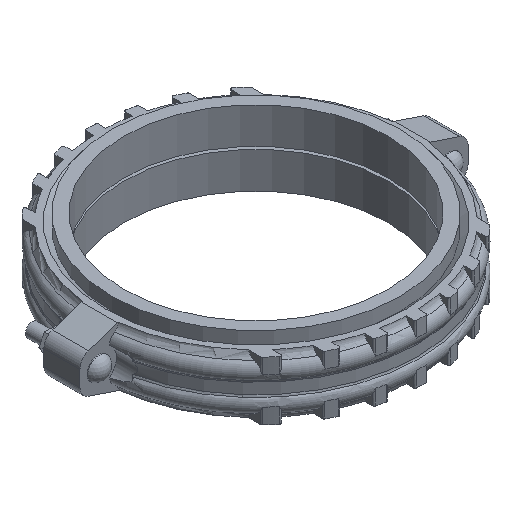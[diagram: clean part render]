
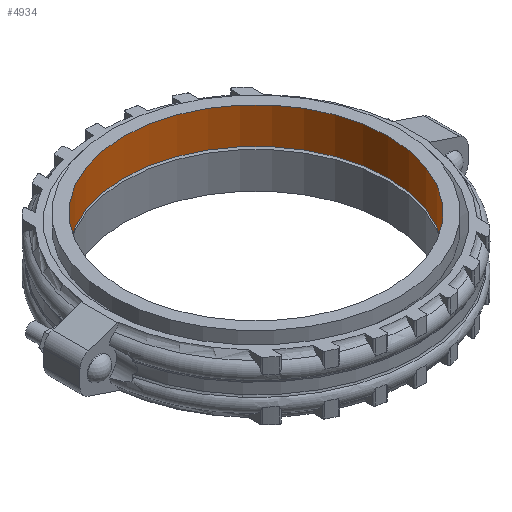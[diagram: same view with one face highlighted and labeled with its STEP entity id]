
A CAD part, isometric view. The second image highlights one B-rep face of the part: STEP entity #4934.
In plain terms, the highlighted cylindrical face has radius 279.4 mm (diameter 558.8 mm), a full revolution.
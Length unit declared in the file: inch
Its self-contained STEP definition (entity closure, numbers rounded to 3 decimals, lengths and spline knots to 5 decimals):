
#386=CYLINDRICAL_SURFACE('',#5507,11.);
#650=FACE_OUTER_BOUND('',#914,.T.);
#914=EDGE_LOOP('',(#4330,#4331,#4332,#4333,#4334,#4335));
#1181=LINE('',#10625,#1446);
#1446=VECTOR('',#6776,11.);
#1693=CIRCLE('',#5505,11.);
#1694=CIRCLE('',#5506,11.);
#1695=CIRCLE('',#5508,11.);
#1696=CIRCLE('',#5509,11.);
#2179=VERTEX_POINT('',#10619);
#2180=VERTEX_POINT('',#10620);
#2181=VERTEX_POINT('',#10624);
#2182=VERTEX_POINT('',#10626);
#2897=EDGE_CURVE('',#2179,#2180,#1693,.T.);
#2898=EDGE_CURVE('',#2180,#2179,#1694,.T.);
#2899=EDGE_CURVE('',#2180,#2181,#1181,.T.);
#2900=EDGE_CURVE('',#2182,#2181,#1695,.T.);
#2901=EDGE_CURVE('',#2181,#2182,#1696,.T.);
#4330=ORIENTED_EDGE('',*,*,#2897,.T.);
#4331=ORIENTED_EDGE('',*,*,#2899,.T.);
#4332=ORIENTED_EDGE('',*,*,#2900,.F.);
#4333=ORIENTED_EDGE('',*,*,#2901,.F.);
#4334=ORIENTED_EDGE('',*,*,#2899,.F.);
#4335=ORIENTED_EDGE('',*,*,#2898,.T.);
#4934=ADVANCED_FACE('',(#650),#386,.F.);
#5505=AXIS2_PLACEMENT_3D('',#10621,#6770,#6771);
#5506=AXIS2_PLACEMENT_3D('',#10622,#6772,#6773);
#5507=AXIS2_PLACEMENT_3D('',#10623,#6774,#6775);
#5508=AXIS2_PLACEMENT_3D('',#10627,#6777,#6778);
#5509=AXIS2_PLACEMENT_3D('',#10628,#6779,#6780);
#6770=DIRECTION('center_axis',(0.,0.,-1.));
#6771=DIRECTION('ref_axis',(1.,0.,0.));
#6772=DIRECTION('center_axis',(0.,0.,-1.));
#6773=DIRECTION('ref_axis',(1.,0.,0.));
#6774=DIRECTION('center_axis',(0.,0.,-1.));
#6775=DIRECTION('ref_axis',(0.,1.,0.));
#6776=DIRECTION('',(0.,0.,1.));
#6777=DIRECTION('center_axis',(0.,0.,-1.));
#6778=DIRECTION('ref_axis',(1.,0.,0.));
#6779=DIRECTION('center_axis',(0.,0.,-1.));
#6780=DIRECTION('ref_axis',(1.,0.,0.));
#10619=CARTESIAN_POINT('',(0.,11.,0.));
#10620=CARTESIAN_POINT('',(0.,-11.,0.));
#10621=CARTESIAN_POINT('Origin',(0.,0.,0.));
#10622=CARTESIAN_POINT('Origin',(0.,0.,0.));
#10623=CARTESIAN_POINT('Origin',(0.,0.,1.5));
#10624=CARTESIAN_POINT('',(0.,-11.,3.));
#10625=CARTESIAN_POINT('',(0.,-11.,1.5));
#10626=CARTESIAN_POINT('',(0.,11.,3.));
#10627=CARTESIAN_POINT('Origin',(0.,0.,3.));
#10628=CARTESIAN_POINT('Origin',(0.,0.,3.));
